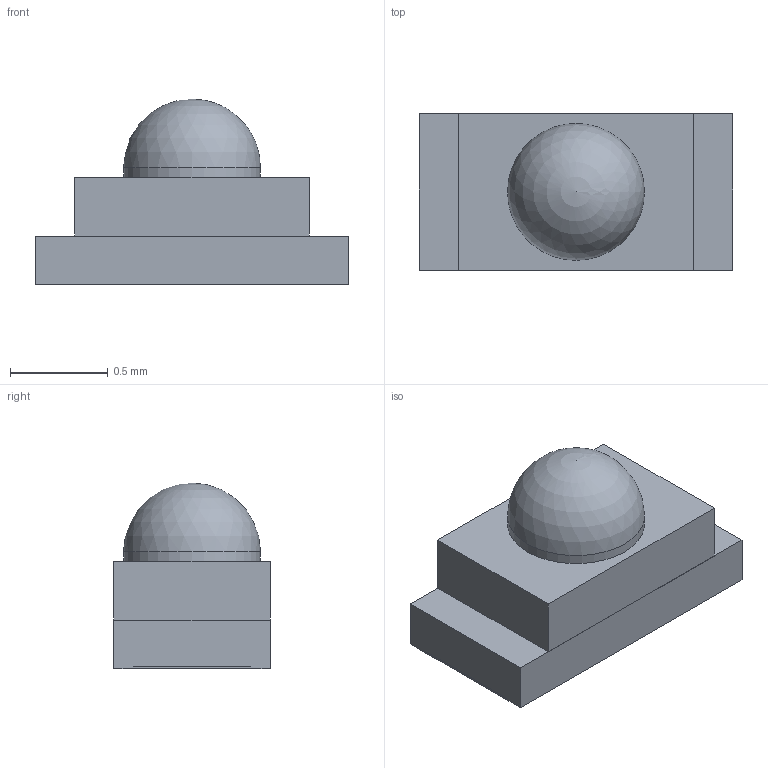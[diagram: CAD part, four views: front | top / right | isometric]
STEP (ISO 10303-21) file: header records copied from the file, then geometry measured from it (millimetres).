
FILE_DESCRIPTION(('Open CASCADE Model'),'2;1');
FILE_NAME('Open CASCADE Shape Model','2026-10-04T11:30:07',('Author'),( 'Open CASCADE'),'Open CASCADE STEP processor 7.9','Open CASCADE 7.9' ,'Unknown');
FILE_SCHEMA(('AUTOMOTIVE_DESIGN { 1 0 10303 214 1 1 1 1 }'));
Length unit declared in the file: millimetre
Products named in the file (7): Kingbright_APTD1608LSURCK_Drawing_Derived_Nominal; Substrate; Cathode_Polarity_Mark_Toward_Negative_X; Pin1_Cathode; Pin2_Anode; Clear_Housing_Illustrative_Color; Domed_Lens_Nominal_Envelope
Assembly tree (6 placements, depth 2):
  Kingbright_APTD1608LSURCK_Drawing_Derived_Nominal
    Substrate
    Cathode_Polarity_Mark_Toward_Negative_X
    Pin1_Cathode
    Pin2_Anode
    Clear_Housing_Illustrative_Color
    Domed_Lens_Nominal_Envelope
Bounding box: 1.6 x 0.8 x 0.95 mm (x, y, z)
Volume: 0.7 mm3; surface area: 9.1 mm2
Topology: 6 solids, 6 shells, 44 faces, 95 edges, 63 vertices
Faces by surface type: plane 42, cylinder 1, sphere 1
Full cylindrical faces by diameter (mm): 0.7 x1
Entity records: 2551 total; most frequent: CARTESIAN_POINT 397, DIRECTION 386, LINE 277, VECTOR 277, ORIENTED_EDGE 188, PCURVE 188, DEFINITIONAL_REPRESENTATION 188, EDGE_CURVE 94
